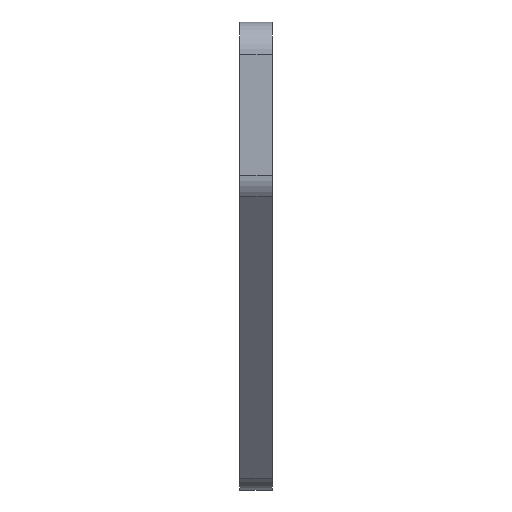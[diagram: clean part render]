
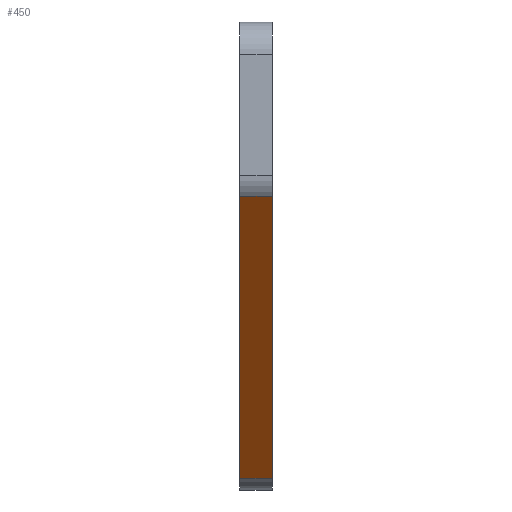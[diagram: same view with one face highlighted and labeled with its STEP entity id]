
A CAD part, left-side view. The second image highlights one B-rep face of the part: STEP entity #450.
In plain terms, the highlighted planar face has unit normal (-0.766, 0, -0.643).
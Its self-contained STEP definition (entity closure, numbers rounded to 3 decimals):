
#15 = VECTOR ( 'NONE', #94, 1000. ) ;
#30 = VECTOR ( 'NONE', #635, 1000. ) ;
#43 = EDGE_CURVE ( 'NONE', #136, #368, #473, .T. ) ;
#94 = DIRECTION ( 'NONE',  ( 0., -1., 0. ) ) ;
#111 = ORIENTED_EDGE ( 'NONE', *, *, #683, .T. ) ;
#136 = VERTEX_POINT ( 'NONE', #581 ) ;
#157 = VERTEX_POINT ( 'NONE', #355 ) ;
#185 = DIRECTION ( 'NONE',  ( -0.643, 0., 0.766 ) ) ;
#218 = DIRECTION ( 'NONE',  ( 0.766, 0., 0.643 ) ) ;
#219 = EDGE_LOOP ( 'NONE', ( #490, #790, #461, #111 ) ) ;
#244 = CARTESIAN_POINT ( 'NONE',  ( -19.282, 2., 10.442 ) ) ;
#277 = VECTOR ( 'NONE', #575, 1000. ) ;
#280 = EDGE_CURVE ( 'NONE', #832, #136, #845, .T. ) ;
#294 = PLANE ( 'NONE',  #717 ) ;
#355 = CARTESIAN_POINT ( 'NONE',  ( -4.826, 0., -6.786 ) ) ;
#368 = VERTEX_POINT ( 'NONE', #942 ) ;
#446 = CARTESIAN_POINT ( 'NONE',  ( -4.826, 2., -6.786 ) ) ;
#450 = ADVANCED_FACE ( 'NONE', ( #972 ), #294, .F. ) ;
#461 = ORIENTED_EDGE ( 'NONE', *, *, #280, .F. ) ;
#473 = LINE ( 'NONE', #767, #15 ) ;
#490 = ORIENTED_EDGE ( 'NONE', *, *, #958, .T. ) ;
#550 = LINE ( 'NONE', #643, #781 ) ;
#575 = DIRECTION ( 'NONE',  ( 0., -1., 0. ) ) ;
#581 = CARTESIAN_POINT ( 'NONE',  ( -19.282, 2., 10.442 ) ) ;
#602 = CARTESIAN_POINT ( 'NONE',  ( -19.282, 2., 10.442 ) ) ;
#635 = DIRECTION ( 'NONE',  ( -0.643, 0., 0.766 ) ) ;
#643 = CARTESIAN_POINT ( 'NONE',  ( -19.282, 0., 10.442 ) ) ;
#650 = LINE ( 'NONE', #947, #277 ) ;
#683 = EDGE_CURVE ( 'NONE', #832, #157, #650, .T. ) ;
#717 = AXIS2_PLACEMENT_3D ( 'NONE', #602, #218, #961 ) ;
#767 = CARTESIAN_POINT ( 'NONE',  ( -19.282, 2., 10.442 ) ) ;
#781 = VECTOR ( 'NONE', #185, 1000. ) ;
#790 = ORIENTED_EDGE ( 'NONE', *, *, #43, .F. ) ;
#832 = VERTEX_POINT ( 'NONE', #446 ) ;
#845 = LINE ( 'NONE', #244, #30 ) ;
#942 = CARTESIAN_POINT ( 'NONE',  ( -19.282, 0., 10.442 ) ) ;
#947 = CARTESIAN_POINT ( 'NONE',  ( -4.826, 2., -6.786 ) ) ;
#958 = EDGE_CURVE ( 'NONE', #157, #368, #550, .T. ) ;
#961 = DIRECTION ( 'NONE',  ( 0.643, 0., -0.766 ) ) ;
#972 = FACE_OUTER_BOUND ( 'NONE', #219, .T. ) ;
